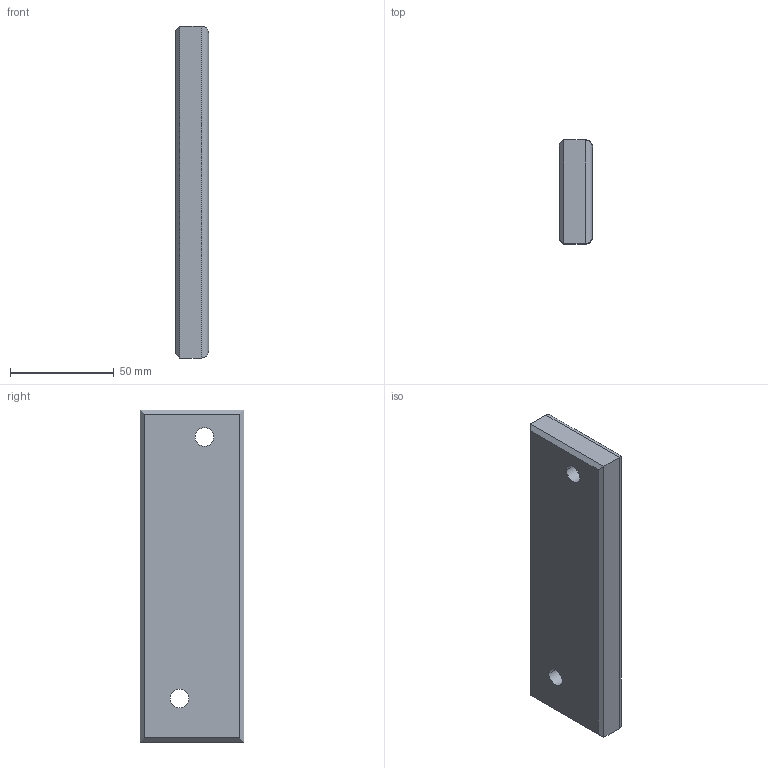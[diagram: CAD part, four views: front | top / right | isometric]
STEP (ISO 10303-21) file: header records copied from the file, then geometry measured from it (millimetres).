
FILE_DESCRIPTION (( 'STEP AP214' ), '1' );
FILE_NAME ('SW224-09-50x160.STEP', '2020-10-20T08:54:31', ( 'August' ), ( '' ), 'SwSTEP 2.0', 'SolidWorks 2018', '' );
FILE_SCHEMA (( 'AUTOMOTIVE_DESIGN' ));
Length unit declared in the file: millimetre
Products named in the file (1): SW224-09-50x160
Bounding box: 16 x 50 x 160 mm (x, y, z)
Volume: 108941.3 mm3; surface area: 28769.8 mm2
Topology: 1 solids, 1 shells, 136 faces, 276 edges, 180 vertices
Faces by surface type: cylinder 84, plane 48, cone 4
Entity records: 4736 total; most frequent: CARTESIAN_POINT 1850, DIRECTION 588, ORIENTED_EDGE 552, EDGE_CURVE 276, AXIS2_PLACEMENT_3D 240, VERTEX_POINT 180, EDGE_LOOP 178, ADVANCED_FACE 136
